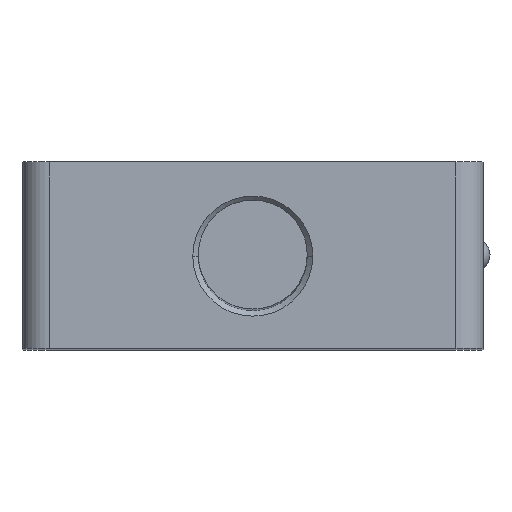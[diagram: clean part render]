
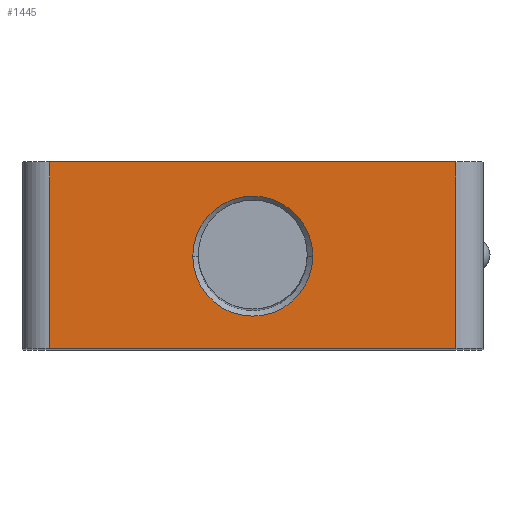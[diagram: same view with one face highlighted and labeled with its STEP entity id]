
A CAD part, top view. The second image highlights one B-rep face of the part: STEP entity #1445.
In plain terms, the highlighted planar face has unit normal (0, 0, 1).
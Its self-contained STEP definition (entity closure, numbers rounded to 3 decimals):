
#149=DIRECTION('',(-1.,0.,0.));
#150=VECTOR('',#149,22.);
#151=CARTESIAN_POINT('',(11.,0.,0.));
#152=LINE('',#151,#150);
#241=DIRECTION('',(0.,1.,0.));
#242=VECTOR('',#241,10.1);
#243=CARTESIAN_POINT('',(11.,-10.1,0.));
#244=LINE('',#243,#242);
#332=DIRECTION('',(0.,1.,0.));
#333=VECTOR('',#332,10.1);
#334=CARTESIAN_POINT('',(-11.,-10.1,0.));
#335=LINE('',#334,#333);
#383=DIRECTION('',(-1.,0.,0.));
#384=VECTOR('',#383,22.);
#385=CARTESIAN_POINT('',(11.,-10.1,0.));
#386=LINE('',#385,#384);
#649=CARTESIAN_POINT('',(0.,-5.1,0.));
#650=DIRECTION('',(0.,0.,1.));
#651=DIRECTION('',(1.,0.,0.));
#652=AXIS2_PLACEMENT_3D('',#649,#650,#651);
#686=CARTESIAN_POINT('',(0.,-5.1,0.));
#687=DIRECTION('',(0.,0.,1.));
#688=DIRECTION('',(-1.,0.,0.));
#689=AXIS2_PLACEMENT_3D('',#686,#687,#688);
#1114=CARTESIAN_POINT('',(11.,-10.1,0.));
#1115=VERTEX_POINT('',#1114);
#1116=CARTESIAN_POINT('',(11.,0.,0.));
#1117=VERTEX_POINT('',#1116);
#1118=CARTESIAN_POINT('',(-11.,-10.1,0.));
#1119=CARTESIAN_POINT('',(-11.,0.,0.));
#1120=VERTEX_POINT('',#1118);
#1121=VERTEX_POINT('',#1119);
#1142=CARTESIAN_POINT('',(-3.25,-5.1,0.));
#1143=CARTESIAN_POINT('',(3.25,-5.1,0.));
#1144=VERTEX_POINT('',#1142);
#1145=VERTEX_POINT('',#1143);
#1427=CARTESIAN_POINT('',(12.5,0.,0.));
#1428=DIRECTION('',(0.,0.,1.));
#1429=DIRECTION('',(-1.,0.,0.));
#1430=AXIS2_PLACEMENT_3D('',#1427,#1428,#1429);
#1431=PLANE('',#1430);
#1432=ORIENTED_EDGE('',*,*,#1282,.F.);
#1434=ORIENTED_EDGE('',*,*,#1433,.T.);
#1435=ORIENTED_EDGE('',*,*,#1411,.T.);
#1436=ORIENTED_EDGE('',*,*,#1231,.F.);
#1437=EDGE_LOOP('',(#1432,#1434,#1435,#1436));
#1438=FACE_OUTER_BOUND('',#1437,.F.);
#1440=ORIENTED_EDGE('',*,*,#1439,.T.);
#1442=ORIENTED_EDGE('',*,*,#1441,.T.);
#1443=EDGE_LOOP('',(#1440,#1442));
#1444=FACE_BOUND('',#1443,.F.);
#653=CIRCLE('',#652,3.25);
#690=CIRCLE('',#689,3.25);
#1231=EDGE_CURVE('',#1117,#1121,#152,.T.);
#1282=EDGE_CURVE('',#1115,#1117,#244,.T.);
#1411=EDGE_CURVE('',#1120,#1121,#335,.T.);
#1433=EDGE_CURVE('',#1115,#1120,#386,.T.);
#1439=EDGE_CURVE('',#1145,#1144,#653,.T.);
#1441=EDGE_CURVE('',#1144,#1145,#690,.T.);
#1445=ADVANCED_FACE('',(#1438,#1444),#1431,.T.);
